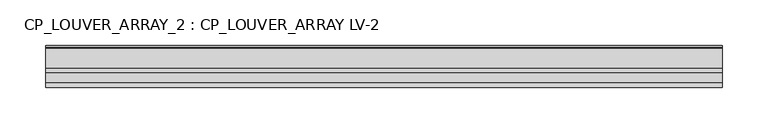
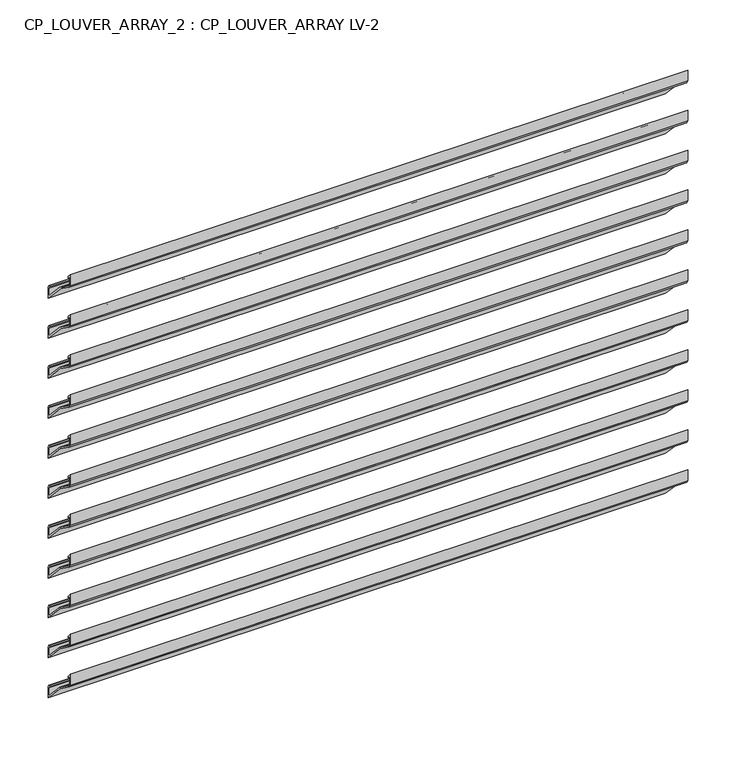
"""IFC4 building model written with IfcOpenShell, lengths in millimetres: plate geometry, CP_LOUVER_ARRAY_2 : CP_LOUVER_ARRAY LV-2."""

from ifc_helpers import new_model, si_unit, origin, place, context, project, spatial, faceted_brep, source, transform, mapped, element, save


def cp_louver_array_2_cp_louver_array_lv_2_19cd5385(model_context):
    return source(origin(), model_context, "Body", "Brep", [
        faceted_brep([(371.4702038, -96.3393096, 549.1190525), (371.4702038, -69.85, 520.7127457), (371.4702038, -69.85, 534.5844296), (371.4702038, -71.4632993, 537.7754075), (371.4702038, -73.025, 538.925084), (371.4702038, -73.025, 537.0326554), (371.4702038, -71.374, 534.5844296), (371.4702038, -71.374, 524.5816451), (371.4702038, -94.5749864, 549.4506311), (371.4702038, -99.9681804, 553.3028259), (371.4702038, -113.6250477, 562.9600681), (371.4702038, -114.6556, 564.9509873), (371.4702038, -114.6556, 574.9060452), (371.4702038, -111.4806, 571.5012746), (371.4702038, -111.4806, 573.735884), (371.4702038, -116.1796, 578.7749446), (371.4702038, -116.1796, 564.9509873), (371.4702038, -114.5049525, 561.7157436), (371.4702038, -100.8480853, 552.0585014), (-371.4702038, -96.3393096, 549.1190525), (-371.4702038, -100.8480853, 552.0585014), (-371.4702038, -114.5049525, 561.7157436), (-371.4702038, -116.1796, 564.9509873), (-371.4702038, -116.1796, 578.7749446), (-371.4702038, -111.4806, 573.735884), (-371.4702038, -111.4806, 571.5012746), (-371.4702038, -114.6556, 574.9060452), (-371.4702038, -114.6556, 564.9509873), (-371.4702038, -113.6250477, 562.9600681), (-371.4702038, -99.9681804, 553.3028259), (-371.4702038, -94.5749864, 549.4506311), (-371.4702038, -71.3542993, 524.6000536), (-371.4702038, -71.374, 534.5844296), (-371.4702038, -73.025, 537.0326554), (-371.4702038, -73.025, 538.925084), (-371.4702038, -71.4632993, 537.7754075), (-371.4702038, -69.85, 534.5844296), (-371.4702038, -69.85, 520.7127457)], [[[0, 1, 2, 3, 4, 5, 6, 7, 8, 9, 10, 11, 12, 13, 14, 15, 16, 17, 18]], [[19, 20, 21, 22, 23, 24, 25, 26, 27, 28, 29, 30, 31, 32, 33, 34, 35, 36, 37]], [[1, 0, 19, 37]], [[2, 1, 37, 36]], [[3, 2, 36, 35]], [[4, 3, 35, 34]], [[5, 4, 34, 33]], [[6, 5, 33, 32]], [[7, 6, 32, 31]], [[7, 31, 30, 8]], [[9, 8, 30, 29]], [[10, 9, 29, 28]], [[11, 10, 28, 27]], [[12, 11, 27, 26]], [[13, 12, 26, 25]], [[14, 13, 25, 24]], [[15, 14, 24, 23]], [[16, 15, 23, 22]], [[17, 16, 22, 21]], [[18, 17, 21, 20]], [[0, 18, 20, 19]]]),
        faceted_brep([(371.4702038, -96.3393096, 498.3177779), (371.4702038, -69.85, 469.9114711), (371.4702038, -69.85, 483.7831551), (371.4702038, -71.4632993, 486.9741329), (371.4702038, -73.025, 488.1238094), (371.4702038, -73.025, 486.2313808), (371.4702038, -71.374, 483.7831551), (371.4702038, -71.374, 473.7803705), (371.4702038, -94.5749864, 498.6493565), (371.4702038, -99.9681804, 502.5015513), (371.4702038, -113.6250477, 512.1587935), (371.4702038, -114.6556, 514.1497128), (371.4702038, -114.6556, 524.1047707), (371.4702038, -111.4806, 520.7), (371.4702038, -111.4806, 522.9346095), (371.4702038, -116.1796, 527.97367), (371.4702038, -116.1796, 514.1497128), (371.4702038, -114.5049525, 510.914469), (371.4702038, -100.8480853, 501.2572268), (-371.4702038, -96.3393096, 498.3177779), (-371.4702038, -100.8480853, 501.2572268), (-371.4702038, -114.5049525, 510.914469), (-371.4702038, -116.1796, 514.1497128), (-371.4702038, -116.1796, 527.97367), (-371.4702038, -111.4806, 522.9346095), (-371.4702038, -111.4806, 520.7), (-371.4702038, -114.6556, 524.1047707), (-371.4702038, -114.6556, 514.1497128), (-371.4702038, -113.6250477, 512.1587935), (-371.4702038, -99.9681804, 502.5015513), (-371.4702038, -94.5749864, 498.6493565), (-371.4702038, -71.3542993, 473.798779), (-371.4702038, -71.374, 483.7831551), (-371.4702038, -73.025, 486.2313808), (-371.4702038, -73.025, 488.1238094), (-371.4702038, -71.4632993, 486.9741329), (-371.4702038, -69.85, 483.7831551), (-371.4702038, -69.85, 469.9114711)], [[[0, 1, 2, 3, 4, 5, 6, 7, 8, 9, 10, 11, 12, 13, 14, 15, 16, 17, 18]], [[19, 20, 21, 22, 23, 24, 25, 26, 27, 28, 29, 30, 31, 32, 33, 34, 35, 36, 37]], [[1, 0, 19, 37]], [[2, 1, 37, 36]], [[3, 2, 36, 35]], [[4, 3, 35, 34]], [[5, 4, 34, 33]], [[6, 5, 33, 32]], [[7, 6, 32, 31]], [[7, 31, 30, 8]], [[9, 8, 30, 29]], [[10, 9, 29, 28]], [[11, 10, 28, 27]], [[12, 11, 27, 26]], [[13, 12, 26, 25]], [[14, 13, 25, 24]], [[15, 14, 24, 23]], [[16, 15, 23, 22]], [[17, 16, 22, 21]], [[18, 17, 21, 20]], [[0, 18, 20, 19]]]),
        faceted_brep([(371.4702038, -96.3393096, 447.5165033), (371.4702038, -69.85, 419.1101965), (371.4702038, -69.85, 432.9818805), (371.4702038, -71.4632993, 436.1728583), (371.4702038, -73.025, 437.3225348), (371.4702038, -73.025, 435.4301063), (371.4702038, -71.374, 432.9818805), (371.4702038, -71.374, 422.9790959), (371.4702038, -94.5749864, 447.8480819), (371.4702038, -99.9681804, 451.7002768), (371.4702038, -113.6250477, 461.357519), (371.4702038, -114.6556, 463.3484382), (371.4702038, -114.6556, 473.3034961), (371.4702038, -111.4806, 469.8987254), (371.4702038, -111.4806, 472.1333349), (371.4702038, -116.1796, 477.1723955), (371.4702038, -116.1796, 463.3484382), (371.4702038, -114.5049525, 460.1131944), (371.4702038, -100.8480853, 450.4559523), (-371.4702038, -96.3393096, 447.5165033), (-371.4702038, -100.8480853, 450.4559523), (-371.4702038, -114.5049525, 460.1131944), (-371.4702038, -116.1796, 463.3484382), (-371.4702038, -116.1796, 477.1723955), (-371.4702038, -111.4806, 472.1333349), (-371.4702038, -111.4806, 469.8987254), (-371.4702038, -114.6556, 473.3034961), (-371.4702038, -114.6556, 463.3484382), (-371.4702038, -113.6250477, 461.357519), (-371.4702038, -99.9681804, 451.7002768), (-371.4702038, -94.5749864, 447.8480819), (-371.4702038, -71.3542993, 422.9975045), (-371.4702038, -71.374, 432.9818805), (-371.4702038, -73.025, 435.4301063), (-371.4702038, -73.025, 437.3225348), (-371.4702038, -71.4632993, 436.1728583), (-371.4702038, -69.85, 432.9818805), (-371.4702038, -69.85, 419.1101965)], [[[0, 1, 2, 3, 4, 5, 6, 7, 8, 9, 10, 11, 12, 13, 14, 15, 16, 17, 18]], [[19, 20, 21, 22, 23, 24, 25, 26, 27, 28, 29, 30, 31, 32, 33, 34, 35, 36, 37]], [[1, 0, 19, 37]], [[2, 1, 37, 36]], [[3, 2, 36, 35]], [[4, 3, 35, 34]], [[5, 4, 34, 33]], [[6, 5, 33, 32]], [[7, 6, 32, 31]], [[7, 31, 30, 8]], [[9, 8, 30, 29]], [[10, 9, 29, 28]], [[11, 10, 28, 27]], [[12, 11, 27, 26]], [[13, 12, 26, 25]], [[14, 13, 25, 24]], [[15, 14, 24, 23]], [[16, 15, 23, 22]], [[17, 16, 22, 21]], [[18, 17, 21, 20]], [[0, 18, 20, 19]]]),
        faceted_brep([(371.4702038, -96.3393096, 396.7152288), (371.4702038, -69.85, 368.308922), (371.4702038, -69.85, 382.1806059), (371.4702038, -71.4632993, 385.3715838), (371.4702038, -73.025, 386.5212603), (371.4702038, -73.025, 384.6288317), (371.4702038, -71.374, 382.1806059), (371.4702038, -71.374, 372.1778214), (371.4702038, -94.5749864, 397.0468074), (371.4702038, -99.9681804, 400.8990022), (371.4702038, -113.6250477, 410.5562444), (371.4702038, -114.6556, 412.5471636), (371.4702038, -114.6556, 422.5022215), (371.4702038, -111.4806, 419.0974509), (371.4702038, -111.4806, 421.3320603), (371.4702038, -116.1796, 426.3711209), (371.4702038, -116.1796, 412.5471636), (371.4702038, -114.5049525, 409.3119199), (371.4702038, -100.8480853, 399.6546777), (-371.4702038, -96.3393096, 396.7152288), (-371.4702038, -100.8480853, 399.6546777), (-371.4702038, -114.5049525, 409.3119199), (-371.4702038, -116.1796, 412.5471636), (-371.4702038, -116.1796, 426.3711209), (-371.4702038, -111.4806, 421.3320603), (-371.4702038, -111.4806, 419.0974509), (-371.4702038, -114.6556, 422.5022215), (-371.4702038, -114.6556, 412.5471636), (-371.4702038, -113.6250477, 410.5562444), (-371.4702038, -99.9681804, 400.8990022), (-371.4702038, -94.5749864, 397.0468074), (-371.4702038, -71.3542993, 372.1962299), (-371.4702038, -71.374, 382.1806059), (-371.4702038, -73.025, 384.6288317), (-371.4702038, -73.025, 386.5212603), (-371.4702038, -71.4632993, 385.3715838), (-371.4702038, -69.85, 382.1806059), (-371.4702038, -69.85, 368.308922)], [[[0, 1, 2, 3, 4, 5, 6, 7, 8, 9, 10, 11, 12, 13, 14, 15, 16, 17, 18]], [[19, 20, 21, 22, 23, 24, 25, 26, 27, 28, 29, 30, 31, 32, 33, 34, 35, 36, 37]], [[1, 0, 19, 37]], [[2, 1, 37, 36]], [[3, 2, 36, 35]], [[4, 3, 35, 34]], [[5, 4, 34, 33]], [[6, 5, 33, 32]], [[7, 6, 32, 31]], [[7, 31, 30, 8]], [[9, 8, 30, 29]], [[10, 9, 29, 28]], [[11, 10, 28, 27]], [[12, 11, 27, 26]], [[13, 12, 26, 25]], [[14, 13, 25, 24]], [[15, 14, 24, 23]], [[16, 15, 23, 22]], [[17, 16, 22, 21]], [[18, 17, 21, 20]], [[0, 18, 20, 19]]]),
        faceted_brep([(371.4702038, -96.3393096, 345.9139542), (371.4702038, -69.85, 317.5076474), (371.4702038, -69.85, 331.3793314), (371.4702038, -71.4632993, 334.5703092), (371.4702038, -73.025, 335.7199857), (371.4702038, -73.025, 333.8275571), (371.4702038, -71.374, 331.3793314), (371.4702038, -71.374, 321.3765468), (371.4702038, -94.5749864, 346.2455328), (371.4702038, -99.9681804, 350.0977276), (371.4702038, -113.6250477, 359.7549698), (371.4702038, -114.6556, 361.7458891), (371.4702038, -114.6556, 371.7009469), (371.4702038, -111.4806, 368.2961763), (371.4702038, -111.4806, 370.5307858), (371.4702038, -116.1796, 375.5698463), (371.4702038, -116.1796, 361.7458891), (371.4702038, -114.5049525, 358.5106453), (371.4702038, -100.8480853, 348.8534031), (-371.4702038, -96.3393096, 345.9139542), (-371.4702038, -100.8480853, 348.8534031), (-371.4702038, -114.5049525, 358.5106453), (-371.4702038, -116.1796, 361.7458891), (-371.4702038, -116.1796, 375.5698463), (-371.4702038, -111.4806, 370.5307858), (-371.4702038, -111.4806, 368.2961763), (-371.4702038, -114.6556, 371.7009469), (-371.4702038, -114.6556, 361.7458891), (-371.4702038, -113.6250477, 359.7549698), (-371.4702038, -99.9681804, 350.0977276), (-371.4702038, -94.5749864, 346.2455328), (-371.4702038, -71.3542993, 321.3949553), (-371.4702038, -71.374, 331.3793314), (-371.4702038, -73.025, 333.8275571), (-371.4702038, -73.025, 335.7199857), (-371.4702038, -71.4632993, 334.5703092), (-371.4702038, -69.85, 331.3793314), (-371.4702038, -69.85, 317.5076474)], [[[0, 1, 2, 3, 4, 5, 6, 7, 8, 9, 10, 11, 12, 13, 14, 15, 16, 17, 18]], [[19, 20, 21, 22, 23, 24, 25, 26, 27, 28, 29, 30, 31, 32, 33, 34, 35, 36, 37]], [[1, 0, 19, 37]], [[2, 1, 37, 36]], [[3, 2, 36, 35]], [[4, 3, 35, 34]], [[5, 4, 34, 33]], [[6, 5, 33, 32]], [[7, 6, 32, 31]], [[7, 31, 30, 8]], [[9, 8, 30, 29]], [[10, 9, 29, 28]], [[11, 10, 28, 27]], [[12, 11, 27, 26]], [[13, 12, 26, 25]], [[14, 13, 25, 24]], [[15, 14, 24, 23]], [[16, 15, 23, 22]], [[17, 16, 22, 21]], [[18, 17, 21, 20]], [[0, 18, 20, 19]]]),
        faceted_brep([(371.4702038, -96.3393096, 295.1126796), (371.4702038, -69.85, 266.7063728), (371.4702038, -69.85, 280.5780568), (371.4702038, -71.4632993, 283.7690346), (371.4702038, -73.025, 284.9187111), (371.4702038, -73.025, 283.0262826), (371.4702038, -71.374, 280.5780568), (371.4702038, -71.374, 270.5752722), (371.4702038, -94.5749864, 295.4442582), (371.4702038, -99.9681804, 299.2964531), (371.4702038, -113.6250477, 308.9536953), (371.4702038, -114.6556, 310.9446145), (371.4702038, -114.6556, 320.8996724), (371.4702038, -111.4806, 317.4949017), (371.4702038, -111.4806, 319.7295112), (371.4702038, -116.1796, 324.7685718), (371.4702038, -116.1796, 310.9446145), (371.4702038, -114.5049525, 307.7093707), (371.4702038, -100.8480853, 298.0521286), (-371.4702038, -96.3393096, 295.1126796), (-371.4702038, -100.8480853, 298.0521286), (-371.4702038, -114.5049525, 307.7093707), (-371.4702038, -116.1796, 310.9446145), (-371.4702038, -116.1796, 324.7685718), (-371.4702038, -111.4806, 319.7295112), (-371.4702038, -111.4806, 317.4949017), (-371.4702038, -114.6556, 320.8996724), (-371.4702038, -114.6556, 310.9446145), (-371.4702038, -113.6250477, 308.9536953), (-371.4702038, -99.9681804, 299.2964531), (-371.4702038, -94.5749864, 295.4442582), (-371.4702038, -71.3542993, 270.5936808), (-371.4702038, -71.374, 280.5780568), (-371.4702038, -73.025, 283.0262826), (-371.4702038, -73.025, 284.9187111), (-371.4702038, -71.4632993, 283.7690346), (-371.4702038, -69.85, 280.5780568), (-371.4702038, -69.85, 266.7063728)], [[[0, 1, 2, 3, 4, 5, 6, 7, 8, 9, 10, 11, 12, 13, 14, 15, 16, 17, 18]], [[19, 20, 21, 22, 23, 24, 25, 26, 27, 28, 29, 30, 31, 32, 33, 34, 35, 36, 37]], [[1, 0, 19, 37]], [[2, 1, 37, 36]], [[3, 2, 36, 35]], [[4, 3, 35, 34]], [[5, 4, 34, 33]], [[6, 5, 33, 32]], [[7, 6, 32, 31]], [[7, 31, 30, 8]], [[9, 8, 30, 29]], [[10, 9, 29, 28]], [[11, 10, 28, 27]], [[12, 11, 27, 26]], [[13, 12, 26, 25]], [[14, 13, 25, 24]], [[15, 14, 24, 23]], [[16, 15, 23, 22]], [[17, 16, 22, 21]], [[18, 17, 21, 20]], [[0, 18, 20, 19]]]),
        faceted_brep([(371.4702038, -96.3393096, 244.3114051), (371.4702038, -69.85, 215.9050983), (371.4702038, -69.85, 229.7767822), (371.4702038, -71.4632993, 232.9677601), (371.4702038, -73.025, 234.1174365), (371.4702038, -73.025, 232.225008), (371.4702038, -71.374, 229.7767822), (371.4702038, -71.374, 219.7739977), (371.4702038, -94.5749864, 244.6429837), (371.4702038, -99.9681804, 248.4951785), (371.4702038, -113.6250477, 258.1524207), (371.4702038, -114.6556, 260.1433399), (371.4702038, -114.6556, 270.0983978), (371.4702038, -111.4806, 266.6936272), (371.4702038, -111.4806, 268.9282366), (371.4702038, -116.1796, 273.9672972), (371.4702038, -116.1796, 260.1433399), (371.4702038, -114.5049525, 256.9080962), (371.4702038, -100.8480853, 247.250854), (-371.4702038, -96.3393096, 244.3114051), (-371.4702038, -100.8480853, 247.250854), (-371.4702038, -114.5049525, 256.9080962), (-371.4702038, -116.1796, 260.1433399), (-371.4702038, -116.1796, 273.9672972), (-371.4702038, -111.4806, 268.9282366), (-371.4702038, -111.4806, 266.6936272), (-371.4702038, -114.6556, 270.0983978), (-371.4702038, -114.6556, 260.1433399), (-371.4702038, -113.6250477, 258.1524207), (-371.4702038, -99.9681804, 248.4951785), (-371.4702038, -94.5749864, 244.6429837), (-371.4702038, -71.3542993, 219.7924062), (-371.4702038, -71.374, 229.7767822), (-371.4702038, -73.025, 232.225008), (-371.4702038, -73.025, 234.1174365), (-371.4702038, -71.4632993, 232.9677601), (-371.4702038, -69.85, 229.7767822), (-371.4702038, -69.85, 215.9050983)], [[[0, 1, 2, 3, 4, 5, 6, 7, 8, 9, 10, 11, 12, 13, 14, 15, 16, 17, 18]], [[19, 20, 21, 22, 23, 24, 25, 26, 27, 28, 29, 30, 31, 32, 33, 34, 35, 36, 37]], [[1, 0, 19, 37]], [[2, 1, 37, 36]], [[3, 2, 36, 35]], [[4, 3, 35, 34]], [[5, 4, 34, 33]], [[6, 5, 33, 32]], [[7, 6, 32, 31]], [[7, 31, 30, 8]], [[9, 8, 30, 29]], [[10, 9, 29, 28]], [[11, 10, 28, 27]], [[12, 11, 27, 26]], [[13, 12, 26, 25]], [[14, 13, 25, 24]], [[15, 14, 24, 23]], [[16, 15, 23, 22]], [[17, 16, 22, 21]], [[18, 17, 21, 20]], [[0, 18, 20, 19]]]),
        faceted_brep([(371.4702038, -96.3393096, 193.5101305), (371.4702038, -69.85, 165.1038237), (371.4702038, -69.85, 178.9755076), (371.4702038, -71.4632993, 182.1664855), (371.4702038, -73.025, 183.316162), (371.4702038, -73.025, 181.4237334), (371.4702038, -71.374, 178.9755076), (371.4702038, -71.374, 168.9727231), (371.4702038, -94.5749864, 193.8417091), (371.4702038, -99.9681804, 197.6939039), (371.4702038, -113.6250477, 207.3511461), (371.4702038, -114.6556, 209.3420654), (371.4702038, -114.6556, 219.2971232), (371.4702038, -111.4806, 215.8923526), (371.4702038, -111.4806, 218.1269621), (371.4702038, -116.1796, 223.1660226), (371.4702038, -116.1796, 209.3420654), (371.4702038, -114.5049525, 206.1068216), (371.4702038, -100.8480853, 196.4495794), (-371.4702038, -96.3393096, 193.5101305), (-371.4702038, -100.8480853, 196.4495794), (-371.4702038, -114.5049525, 206.1068216), (-371.4702038, -116.1796, 209.3420654), (-371.4702038, -116.1796, 223.1660226), (-371.4702038, -111.4806, 218.1269621), (-371.4702038, -111.4806, 215.8923526), (-371.4702038, -114.6556, 219.2971232), (-371.4702038, -114.6556, 209.3420654), (-371.4702038, -113.6250477, 207.3511461), (-371.4702038, -99.9681804, 197.6939039), (-371.4702038, -94.5749864, 193.8417091), (-371.4702038, -71.3542993, 168.9911316), (-371.4702038, -71.374, 178.9755076), (-371.4702038, -73.025, 181.4237334), (-371.4702038, -73.025, 183.316162), (-371.4702038, -71.4632993, 182.1664855), (-371.4702038, -69.85, 178.9755076), (-371.4702038, -69.85, 165.1038237)], [[[0, 1, 2, 3, 4, 5, 6, 7, 8, 9, 10, 11, 12, 13, 14, 15, 16, 17, 18]], [[19, 20, 21, 22, 23, 24, 25, 26, 27, 28, 29, 30, 31, 32, 33, 34, 35, 36, 37]], [[1, 0, 19, 37]], [[2, 1, 37, 36]], [[3, 2, 36, 35]], [[4, 3, 35, 34]], [[5, 4, 34, 33]], [[6, 5, 33, 32]], [[7, 6, 32, 31]], [[7, 31, 30, 8]], [[9, 8, 30, 29]], [[10, 9, 29, 28]], [[11, 10, 28, 27]], [[12, 11, 27, 26]], [[13, 12, 26, 25]], [[14, 13, 25, 24]], [[15, 14, 24, 23]], [[16, 15, 23, 22]], [[17, 16, 22, 21]], [[18, 17, 21, 20]], [[0, 18, 20, 19]]]),
        faceted_brep([(371.4702038, -96.3393096, 142.7088559), (371.4702038, -69.85, 114.3025491), (371.4702038, -69.85, 128.1742331), (371.4702038, -71.4632993, 131.3652109), (371.4702038, -73.025, 132.5148874), (371.4702038, -73.025, 130.6224589), (371.4702038, -71.374, 128.1742331), (371.4702038, -71.374, 118.1714485), (371.4702038, -94.5749864, 143.0404345), (371.4702038, -99.9681804, 146.8926294), (371.4702038, -113.6250477, 156.5498716), (371.4702038, -114.6556, 158.5407908), (371.4702038, -114.6556, 168.4958487), (371.4702038, -111.4806, 165.091078), (371.4702038, -111.4806, 167.3256875), (371.4702038, -116.1796, 172.3647481), (371.4702038, -116.1796, 158.5407908), (371.4702038, -114.5049525, 155.305547), (371.4702038, -100.8480853, 145.6483048), (-371.4702038, -96.3393096, 142.7088559), (-371.4702038, -100.8480853, 145.6483048), (-371.4702038, -114.5049525, 155.305547), (-371.4702038, -116.1796, 158.5407908), (-371.4702038, -116.1796, 172.3647481), (-371.4702038, -111.4806, 167.3256875), (-371.4702038, -111.4806, 165.091078), (-371.4702038, -114.6556, 168.4958487), (-371.4702038, -114.6556, 158.5407908), (-371.4702038, -113.6250477, 156.5498716), (-371.4702038, -99.9681804, 146.8926294), (-371.4702038, -94.5749864, 143.0404345), (-371.4702038, -71.3542993, 118.1898571), (-371.4702038, -71.374, 128.1742331), (-371.4702038, -73.025, 130.6224589), (-371.4702038, -73.025, 132.5148874), (-371.4702038, -71.4632993, 131.3652109), (-371.4702038, -69.85, 128.1742331), (-371.4702038, -69.85, 114.3025491)], [[[0, 1, 2, 3, 4, 5, 6, 7, 8, 9, 10, 11, 12, 13, 14, 15, 16, 17, 18]], [[19, 20, 21, 22, 23, 24, 25, 26, 27, 28, 29, 30, 31, 32, 33, 34, 35, 36, 37]], [[1, 0, 19, 37]], [[2, 1, 37, 36]], [[3, 2, 36, 35]], [[4, 3, 35, 34]], [[5, 4, 34, 33]], [[6, 5, 33, 32]], [[7, 6, 32, 31]], [[7, 31, 30, 8]], [[9, 8, 30, 29]], [[10, 9, 29, 28]], [[11, 10, 28, 27]], [[12, 11, 27, 26]], [[13, 12, 26, 25]], [[14, 13, 25, 24]], [[15, 14, 24, 23]], [[16, 15, 23, 22]], [[17, 16, 22, 21]], [[18, 17, 21, 20]], [[0, 18, 20, 19]]]),
        faceted_brep([(371.4702038, -96.3393096, 91.9075814), (371.4702038, -69.85, 63.5012746), (371.4702038, -69.85, 77.3729585), (371.4702038, -71.4632993, 80.5639364), (371.4702038, -73.025, 81.7136128), (371.4702038, -73.025, 79.8211843), (371.4702038, -71.374, 77.3729585), (371.4702038, -71.374, 67.370174), (371.4702038, -94.5749864, 92.23916), (371.4702038, -99.9681804, 96.0913548), (371.4702038, -113.6250477, 105.748597), (371.4702038, -114.6556, 107.7395162), (371.4702038, -114.6556, 117.6945741), (371.4702038, -111.4806, 114.2898035), (371.4702038, -111.4806, 116.5244129), (371.4702038, -116.1796, 121.5634735), (371.4702038, -116.1796, 107.7395162), (371.4702038, -114.5049525, 104.5042725), (371.4702038, -100.8480853, 94.8470303), (-371.4702038, -96.3393096, 91.9075814), (-371.4702038, -100.8480853, 94.8470303), (-371.4702038, -114.5049525, 104.5042725), (-371.4702038, -116.1796, 107.7395162), (-371.4702038, -116.1796, 121.5634735), (-371.4702038, -111.4806, 116.5244129), (-371.4702038, -111.4806, 114.2898035), (-371.4702038, -114.6556, 117.6945741), (-371.4702038, -114.6556, 107.7395162), (-371.4702038, -113.6250477, 105.748597), (-371.4702038, -99.9681804, 96.0913548), (-371.4702038, -94.5749864, 92.23916), (-371.4702038, -71.3542993, 67.3885825), (-371.4702038, -71.374, 77.3729585), (-371.4702038, -73.025, 79.8211843), (-371.4702038, -73.025, 81.7136128), (-371.4702038, -71.4632993, 80.5639364), (-371.4702038, -69.85, 77.3729585), (-371.4702038, -69.85, 63.5012746)], [[[0, 1, 2, 3, 4, 5, 6, 7, 8, 9, 10, 11, 12, 13, 14, 15, 16, 17, 18]], [[19, 20, 21, 22, 23, 24, 25, 26, 27, 28, 29, 30, 31, 32, 33, 34, 35, 36, 37]], [[1, 0, 19, 37]], [[2, 1, 37, 36]], [[3, 2, 36, 35]], [[4, 3, 35, 34]], [[5, 4, 34, 33]], [[6, 5, 33, 32]], [[7, 6, 32, 31]], [[7, 31, 30, 8]], [[9, 8, 30, 29]], [[10, 9, 29, 28]], [[11, 10, 28, 27]], [[12, 11, 27, 26]], [[13, 12, 26, 25]], [[14, 13, 25, 24]], [[15, 14, 24, 23]], [[16, 15, 23, 22]], [[17, 16, 22, 21]], [[18, 17, 21, 20]], [[0, 18, 20, 19]]]),
        faceted_brep([(371.4702038, -96.3393096, 41.1063068), (371.4702038, -69.85, 12.7), (371.4702038, -69.85, 26.5716839), (371.4702038, -71.4632993, 29.7626618), (371.4702038, -73.025, 30.9123383), (371.4702038, -73.025, 29.0199097), (371.4702038, -71.374, 26.5716839), (371.4702038, -71.374, 16.5688994), (371.4702038, -94.5749864, 41.4378854), (371.4702038, -99.9681804, 45.2900802), (371.4702038, -113.6250477, 54.9473224), (371.4702038, -114.6556, 56.9382417), (371.4702038, -114.6556, 66.8932995), (371.4702038, -111.4806, 63.4885289), (371.4702038, -111.4806, 65.7231384), (371.4702038, -116.1796, 70.7621989), (371.4702038, -116.1796, 56.9382417), (371.4702038, -114.5049525, 53.7029979), (371.4702038, -100.8480853, 44.0457557), (-371.4702038, -96.3393096, 41.1063068), (-371.4702038, -100.8480853, 44.0457557), (-371.4702038, -114.5049525, 53.7029979), (-371.4702038, -116.1796, 56.9382417), (-371.4702038, -116.1796, 70.7621989), (-371.4702038, -111.4806, 65.7231384), (-371.4702038, -111.4806, 63.4885289), (-371.4702038, -114.6556, 66.8932995), (-371.4702038, -114.6556, 56.9382417), (-371.4702038, -113.6250477, 54.9473224), (-371.4702038, -99.9681804, 45.2900802), (-371.4702038, -94.5749864, 41.4378854), (-371.4702038, -71.3542993, 16.5873079), (-371.4702038, -71.374, 26.5716839), (-371.4702038, -73.025, 29.0199097), (-371.4702038, -73.025, 30.9123383), (-371.4702038, -71.4632993, 29.7626618), (-371.4702038, -69.85, 26.5716839), (-371.4702038, -69.85, 12.7)], [[[0, 1, 2, 3, 4, 5, 6, 7, 8, 9, 10, 11, 12, 13, 14, 15, 16, 17, 18]], [[19, 20, 21, 22, 23, 24, 25, 26, 27, 28, 29, 30, 31, 32, 33, 34, 35, 36, 37]], [[1, 0, 19, 37]], [[2, 1, 37, 36]], [[3, 2, 36, 35]], [[4, 3, 35, 34]], [[5, 4, 34, 33]], [[6, 5, 33, 32]], [[7, 6, 32, 31]], [[7, 31, 30, 8]], [[9, 8, 30, 29]], [[10, 9, 29, 28]], [[11, 10, 28, 27]], [[12, 11, 27, 26]], [[13, 12, 26, 25]], [[14, 13, 25, 24]], [[15, 14, 24, 23]], [[16, 15, 23, 22]], [[17, 16, 22, 21]], [[18, 17, 21, 20]], [[0, 18, 20, 19]]]),
    ])


if __name__ == "__main__":
    model = new_model("IFC4")
    model_context = context("Model", 3, world=origin())
    ifc_project = project(units=[si_unit("LENGTHUNIT", "METRE", prefix="MILLI")], contexts=[model_context])
    site = spatial("IfcSite", under=ifc_project)
    building = spatial("IfcBuilding", under=site)
    placement = place(None, origin())
    cp_louver_array_2_cp_louver_array_lv_2_shape = cp_louver_array_2_cp_louver_array_lv_2_19cd5385(model_context)
    element("IfcPlate", 1, ObjectType="CP_LOUVER_ARRAY_2 : CP_LOUVER_ARRAY LV-2", at=placement, inside=building, context=model_context, shape_type="MappedRepresentation", body=[
        mapped(cp_louver_array_2_cp_louver_array_lv_2_shape, transform((0.0, 0.0, 0.0), x_axis=(1.0, 0.0, 0.0), y_axis=(0.0, 1.0, 0.0), z_axis=(0.0, 0.0, 1.0))),
    ])
    save(model, "model.ifc")
